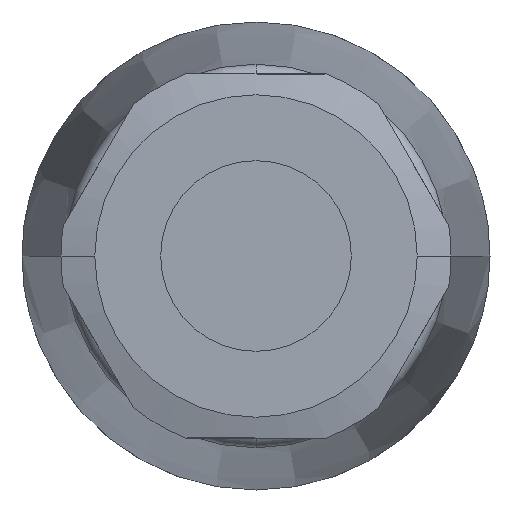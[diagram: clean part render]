
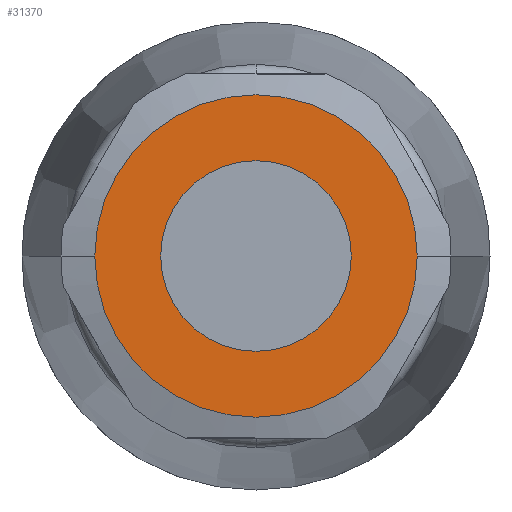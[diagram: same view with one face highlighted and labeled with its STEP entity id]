
A CAD part, front view. The second image highlights one B-rep face of the part: STEP entity #31370.
In plain terms, the highlighted planar face has unit normal (0, -1, 0) as drawn and (1, 0, 0) by its records, which use the part's own axes.
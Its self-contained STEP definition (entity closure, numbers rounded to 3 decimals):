
#30770=CARTESIAN_POINT('',(-365.926,-247.488,40.7));
#30780=VERTEX_POINT('',#30770);
#30810=CARTESIAN_POINT('',(-365.926,-247.488,50.));
#30820=DIRECTION('',(-1.,0.,0.));
#30830=DIRECTION('',(0.,0.,1.));
#30840=AXIS2_PLACEMENT_3D('',#30810,#30820,#30830);
#30850=CIRCLE('',#30840,9.3);
#30860=CARTESIAN_POINT('',(-365.926,-247.488,
59.3));
#30870=VERTEX_POINT('',#30860);
#30880=EDGE_CURVE('',#30870,#30780,#30850,.T.);
#31120=CARTESIAN_POINT('',(-365.926,-250.287,
50.687));
#31130=DIRECTION('',(1.,0.,0.));
#31140=DIRECTION('',(0.,1.,0.));
#31150=AXIS2_PLACEMENT_3D('',#31120,#31130,#31140);
#31160=PLANE('',#31150);
#31170=EDGE_CURVE('',#30780,#30870,#30850,.T.);
#31180=ORIENTED_EDGE('',*,*,#31170,.F.);
#31190=ORIENTED_EDGE('',*,*,#30880,.F.);
#31200=EDGE_LOOP('',(#31190,#31180));
#31210=FACE_OUTER_BOUND('',#31200,.T.);
#31220=CARTESIAN_POINT('',(-365.926,-247.488,50.));
#31230=DIRECTION('',(1.,0.,0.));
#31240=DIRECTION('',(0.,1.,0.));
#31250=AXIS2_PLACEMENT_3D('',#31220,#31230,#31240);
#31260=CIRCLE('',#31250,5.5);
#31270=CARTESIAN_POINT('',(-365.926,-241.988,50.));
#31280=VERTEX_POINT('',#31270);
#31290=CARTESIAN_POINT('',(-365.926,-252.988,50.));
#31300=VERTEX_POINT('',#31290);
#31310=EDGE_CURVE('',#31280,#31300,#31260,.T.);
#31320=ORIENTED_EDGE('',*,*,#31310,.F.);
#31330=EDGE_CURVE('',#31300,#31280,#31260,.T.);
#31340=ORIENTED_EDGE('',*,*,#31330,.F.);
#31350=EDGE_LOOP('',(#31340,#31320));
#31360=FACE_BOUND('',#31350,.T.);
#31370=ADVANCED_FACE('',(#31210,#31360),#31160,.T.);
